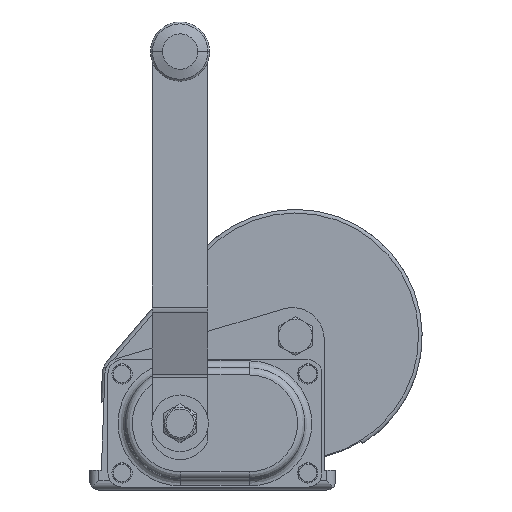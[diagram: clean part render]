
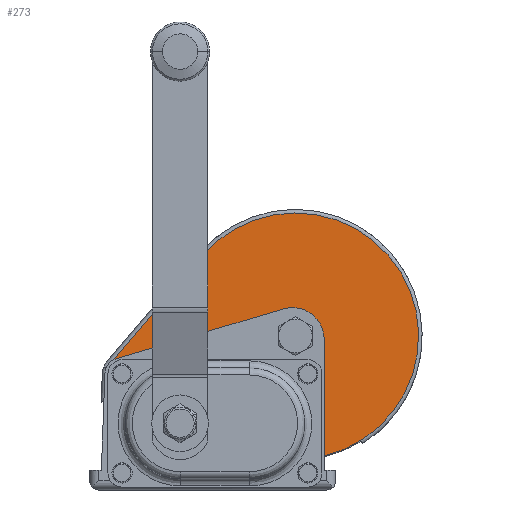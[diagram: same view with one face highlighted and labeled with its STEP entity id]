
A CAD part, top view. The second image highlights one B-rep face of the part: STEP entity #273.
In plain terms, the highlighted planar face has unit normal (0, 0, 1).
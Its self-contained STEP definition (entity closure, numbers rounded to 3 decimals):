
#273=ADVANCED_FACE('',(#2831),#2830,.F.);
#2830=PLANE('',#13475);
#2831=FACE_OUTER_BOUND('',#13476,.T.);
#13472=CARTESIAN_POINT('',(74.82,-28.378,110.));
#13473=DIRECTION('',(0.,0.,-1.));
#13474=DIRECTION('',(-1.,0.,0.));
#13475=AXIS2_PLACEMENT_3D('',#13472,#13473,#13474);
#13476=EDGE_LOOP('',(#19867,#19868,#19869,#19870,#19871,#19872));
#19867=ORIENTED_EDGE('',*,*,#24866,.T.);
#19868=ORIENTED_EDGE('',*,*,#24861,.T.);
#19869=ORIENTED_EDGE('',*,*,#24858,.T.);
#19870=ORIENTED_EDGE('',*,*,#24879,.T.);
#19871=ORIENTED_EDGE('',*,*,#24875,.T.);
#19872=ORIENTED_EDGE('',*,*,#25140,.T.);
#24858=EDGE_CURVE('',#29244,#29245,#29246,.T.);
#24861=EDGE_CURVE('',#29264,#29244,#29265,.T.);
#24866=EDGE_CURVE('',#29298,#29264,#29299,.T.);
#24875=EDGE_CURVE('',#29359,#29360,#29361,.T.);
#24879=EDGE_CURVE('',#29245,#29359,#29386,.T.);
#25140=EDGE_CURVE('',#29360,#29298,#31112,.T.);
#29244=VERTEX_POINT('',#47268);
#29245=VERTEX_POINT('',#47269);
#29246=LINE('',#47270,#47271);
#29264=VERTEX_POINT('',#47279);
#29265=CIRCLE('',#47283,9.);
#29298=VERTEX_POINT('',#47308);
#29299=LINE('',#47309,#47310);
#29359=VERTEX_POINT('',#47356);
#29360=VERTEX_POINT('',#47357);
#29361=LINE('',#47358,#47359);
#29386=CIRCLE('',#47377,18.);
#31112=CIRCLE('',#48439,69.65);
#47268=CARTESIAN_POINT('',(-145.93,36.626,110.));
#47269=CARTESIAN_POINT('',(-51.499,64.751,110.));
#47270=CARTESIAN_POINT('',(-145.93,36.626,110.));
#47271=VECTOR('',#47272,98.53);
#47272=DIRECTION('',(0.958,0.285,0.));
#47279=CARTESIAN_POINT('',(-147.896,35.774,110.));
#47280=CARTESIAN_POINT('',(-143.361,28.,110.));
#47281=DIRECTION('',(0.,0.,-1.));
#47282=DIRECTION('',(1.,0.,0.));
#47283=AXIS2_PLACEMENT_3D('',#47280,#47281,#47282);
#47308=CARTESIAN_POINT('',(-97.532,94.633,110.));
#47309=CARTESIAN_POINT('',(-97.532,94.633,110.));
#47310=VECTOR('',#47311,77.466);
#47311=DIRECTION('',(-0.65,-0.76,0.));
#47356=CARTESIAN_POINT('',(-28.361,47.5,110.));
#47357=CARTESIAN_POINT('',(-28.361,-18.378,110.));
#47358=CARTESIAN_POINT('',(-28.361,47.5,110.));
#47359=VECTOR('',#47360,65.878);
#47360=DIRECTION('',(0.,-1.,0.));
#47374=CARTESIAN_POINT('',(-46.361,47.5,110.));
#47375=DIRECTION('',(0.,0.,-1.));
#47376=DIRECTION('',(1.,0.,0.));
#47377=AXIS2_PLACEMENT_3D('',#47374,#47375,#47376);
#48436=CARTESIAN_POINT('',(-44.611,49.35,110.));
#48437=DIRECTION('',(0.,0.,1.));
#48438=DIRECTION('',(-0.76,0.65,0.));
#48439=AXIS2_PLACEMENT_3D('',#48436,#48437,#48438);
